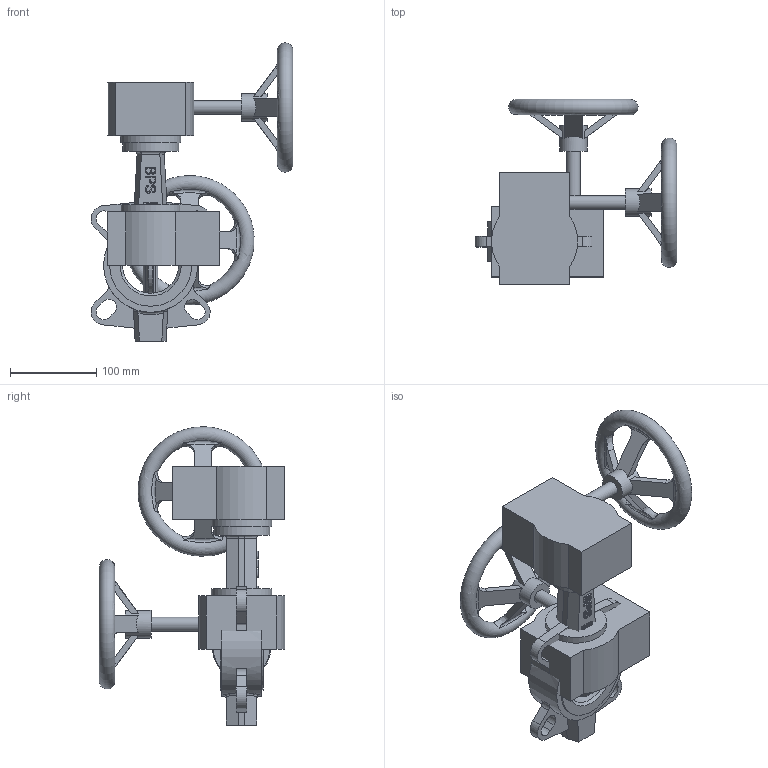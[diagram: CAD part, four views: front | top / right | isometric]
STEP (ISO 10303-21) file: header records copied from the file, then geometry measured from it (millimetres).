
FILE_DESCRIPTION( ( 'Unknown' ), '1' );
FILE_NAME( 'R:/ECCUA/ROOTSI BPS 3D vidinad/Poordklapid Wafer type/Butterfly valve(wafer) with gearbox BPS/STEP formaat/BPS 2303065VX butterfly valve DN65.stp', 'Unknown', ( 'Unknown' ), ( 'Unknown' ), 'PSStep 10.1', 'Unknown', ' ' );
FILE_SCHEMA( ( 'AUTOMOTIVE_DESIGN { 1 0 10303 214 1 1 1 1 }' ) );
Length unit declared in the file: millimetre
Products named in the file (3): Assem1; Butterfly valve wafer type DN65 BPS; Gearbox DN40-80 BPS
Bounding box: 234.04 x 215 x 345.98 mm (x, y, z)
Volume: 2883038.9 mm3; surface area: 353435.7 mm2
Topology: 4 solids, 4 shells, 486 faces, 1284 edges, 848 vertices
Faces by surface type: plane 218, cylinder 102, extrusion 88, bspline 56, torus 18, cone 4
Full cylindrical faces by diameter (mm): 7 x8, 16 x4, 32 x2, 65 x4, 70 x2, 95 x4, 109 x2
Entity records: 15355 total; most frequent: CARTESIAN_POINT 7785, ORIENTED_EDGE 1230, DIRECTION 944, EDGE_CURVE 615, VERTEX_POINT 416, VECTOR 324, AXIS2_PLACEMENT_3D 310, EDGE_LOOP 309
